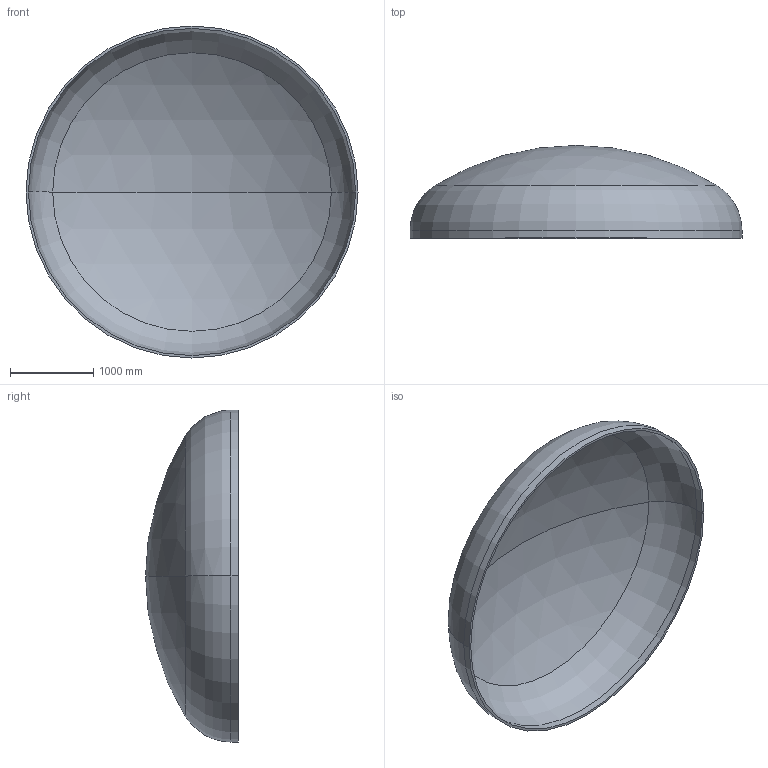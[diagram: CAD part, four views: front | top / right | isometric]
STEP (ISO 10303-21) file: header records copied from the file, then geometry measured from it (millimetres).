
FILE_DESCRIPTION (( 'STEP AP203' ), '1' );
FILE_NAME ('DIN 28013 Korbbogenform_-_Boden DIN 28013 - 4000 x 90 - I - s=29.step', '2016-07-01T22:14:23', ( '' ), ( '' ), 'SwSTEP 2.0', 'SolidWorks 2013', '' );
FILE_SCHEMA (( 'CONFIG_CONTROL_DESIGN' ));
Length unit declared in the file: millimetre
Products named in the file (1): DIN 28013 Korbbogenform_-_Boden DIN 28013 - 4000 x 90 - I - s=29
Bounding box: 4000 x 1118.21 x 4000 mm (x, y, z)
Volume: 532315022.6 mm3; surface area: 37074910.8 mm2
Topology: 1 solids, 1 shells, 13 faces, 24 edges, 14 vertices
Faces by surface type: torus 4, cylinder 4, sphere 4, plane 1
Entity records: 407 total; most frequent: DIRECTION 72, CARTESIAN_POINT 52, ORIENTED_EDGE 48, AXIS2_PLACEMENT_3D 34, EDGE_CURVE 24, CIRCLE 20, EDGE_LOOP 14, VERTEX_POINT 14
